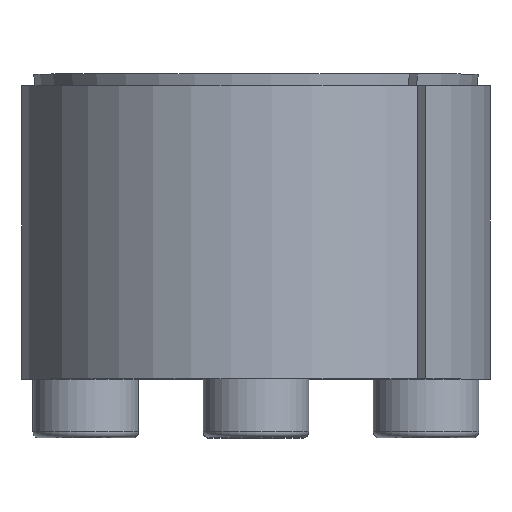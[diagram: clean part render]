
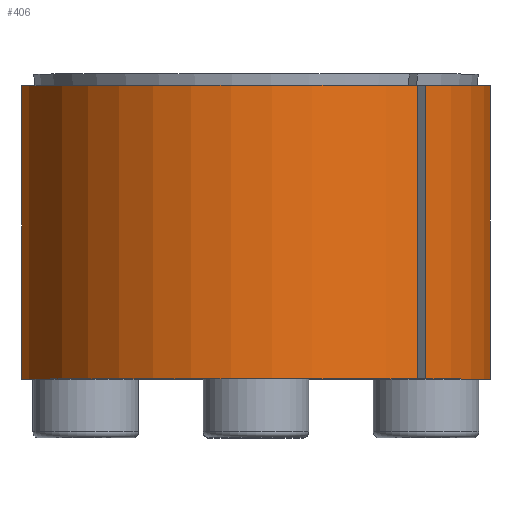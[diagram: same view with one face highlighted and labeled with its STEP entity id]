
A CAD part, top view. The second image highlights one B-rep face of the part: STEP entity #406.
In plain terms, the highlighted cylindrical face has radius 10 mm (diameter 20 mm), a partial arc.
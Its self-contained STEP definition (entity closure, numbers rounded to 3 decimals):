
#406 = ADVANCED_FACE( '', ( #684 ), #685, .T. );
#684 = FACE_OUTER_BOUND( '', #967, .T. );
#685 = CYLINDRICAL_SURFACE( '', #968, 10. );
#967 = EDGE_LOOP( '', ( #1319, #1320, #1321, #1322 ) );
#968 = AXIS2_PLACEMENT_3D( '', #1323, #1324, #1325 );
#1319 = ORIENTED_EDGE( '', *, *, #1943, .T. );
#1320 = ORIENTED_EDGE( '', *, *, #1947, .T. );
#1321 = ORIENTED_EDGE( '', *, *, #1938, .T. );
#1322 = ORIENTED_EDGE( '', *, *, #1928, .T. );
#1323 = CARTESIAN_POINT( '', ( 0., -60., 0. ) );
#1324 = DIRECTION( '', ( 0., -1., 0. ) );
#1325 = DIRECTION( '', ( 0., 0., 1. ) );
#1928 = EDGE_CURVE( '', #2140, #2138, #2141, .T. );
#1938 = EDGE_CURVE( '', #2158, #2140, #2159, .T. );
#1943 = EDGE_CURVE( '', #2138, #2164, #2166, .T. );
#1947 = EDGE_CURVE( '', #2164, #2158, #2171, .F. );
#2138 = VERTEX_POINT( '', #2375 );
#2140 = VERTEX_POINT( '', #2378 );
#2141 = LINE( '', #2379, #2380 );
#2158 = VERTEX_POINT( '', #2404 );
#2159 = CIRCLE( '', #2405, 10. );
#2164 = VERTEX_POINT( '', #2414 );
#2166 = CIRCLE( '', #2417, 10. );
#2171 = LINE( '', #2424, #2425 );
#2375 = CARTESIAN_POINT( '', ( 6.892, 6., 7.246 ) );
#2378 = CARTESIAN_POINT( '', ( 6.892, -6.5, 7.246 ) );
#2379 = CARTESIAN_POINT( '', ( 6.892, -60., 7.246 ) );
#2380 = VECTOR( '', #2761, 1000. );
#2404 = CARTESIAN_POINT( '', ( 7.246, -6.5, 6.892 ) );
#2405 = AXIS2_PLACEMENT_3D( '', #2781, #2782, #2783 );
#2414 = CARTESIAN_POINT( '', ( 7.246, 6., 6.892 ) );
#2417 = AXIS2_PLACEMENT_3D( '', #2789, #2790, #2791 );
#2424 = CARTESIAN_POINT( '', ( 7.246, -60., 6.892 ) );
#2425 = VECTOR( '', #2797, 1000. );
#2761 = DIRECTION( '', ( 0., 1., 0. ) );
#2781 = CARTESIAN_POINT( '', ( 0., -6.5, 0. ) );
#2782 = DIRECTION( '', ( 0., 1., 0. ) );
#2783 = DIRECTION( '', ( 0., 0., 1. ) );
#2789 = CARTESIAN_POINT( '', ( 0., 6., 0. ) );
#2790 = DIRECTION( '', ( 0., -1., 0. ) );
#2791 = DIRECTION( '', ( 0., 0., -1. ) );
#2797 = DIRECTION( '', ( 0., 1., 0. ) );
